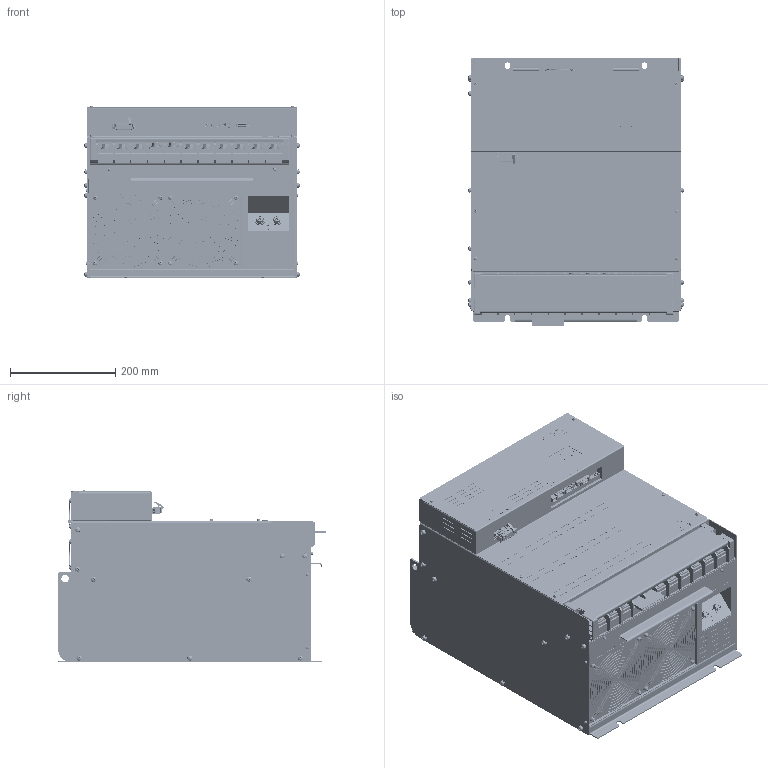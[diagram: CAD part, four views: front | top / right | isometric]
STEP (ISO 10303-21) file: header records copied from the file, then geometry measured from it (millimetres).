
FILE_DESCRIPTION (( 'STEP AP203' ), '1' );
FILE_NAME ('NCR-HB3_553#SE-84801.STEP', '2021-07-08T06:50:35', ( '' ), ( '' ), 'SwSTEP 2.0', 'SolidWorks 2018', '' );
FILE_SCHEMA (( 'CONFIG_CONTROL_DESIGN' ));
Products named in the file (1): NCR-HB3_553#SE-84801
Bounding box: 409.06 x 508 x 327.95 mm (x, y, z)
Volume: 50207777.7 mm3; surface area: 1555423.7 mm2
Topology: 4 solids, 43 shells, 16838 faces, 46212 edges, 29709 vertices
Faces by surface type: plane 10574, cylinder 2668, bspline 2043, cone 1219, torus 244, sphere 90
Entity records: 603809 total; most frequent: CARTESIAN_POINT 184294, ORIENTED_EDGE 92212, DIRECTION 80162, EDGE_CURVE 46106, VECTOR 30548, LINE 30548, VERTEX_POINT 29709, AXIS2_PLACEMENT_3D 24807
